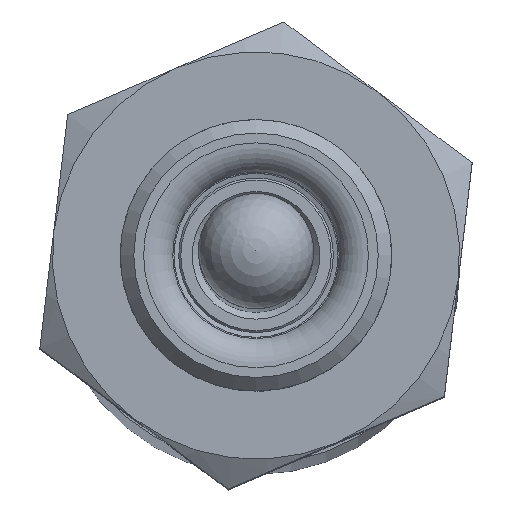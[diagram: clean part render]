
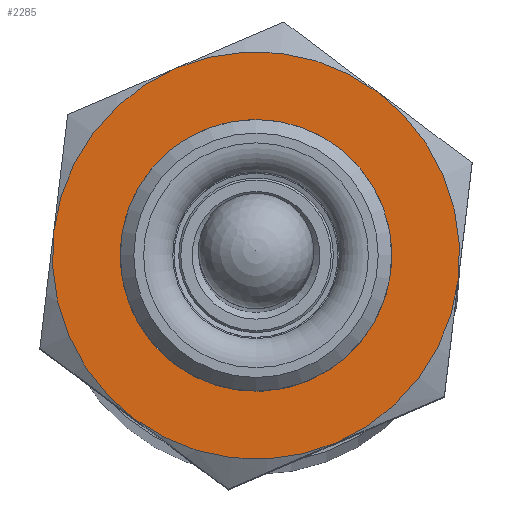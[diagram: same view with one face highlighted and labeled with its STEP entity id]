
A CAD part, top view. The second image highlights one B-rep face of the part: STEP entity #2285.
In plain terms, the highlighted planar face has unit normal (0, 0, 1) as drawn and (1, 0, 0) by its records, which use the part's own axes.
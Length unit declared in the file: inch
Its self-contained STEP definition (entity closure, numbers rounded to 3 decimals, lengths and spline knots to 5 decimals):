
#162=FACE_BOUND('',#540,.T.);
#217=PLANE('',#2655);
#354=FACE_OUTER_BOUND('',#539,.T.);
#539=EDGE_LOOP('',(#1909,#1910,#1911,#1912,#1913,#1914));
#540=EDGE_LOOP('',(#1915));
#929=CIRCLE('',#2654,0.25006);
#930=CIRCLE('',#2656,0.375);
#931=CIRCLE('',#2657,0.375);
#932=CIRCLE('',#2658,0.375);
#933=CIRCLE('',#2659,0.375);
#934=CIRCLE('',#2660,0.375);
#935=CIRCLE('',#2661,0.375);
#1102=VERTEX_POINT('',#4100);
#1103=VERTEX_POINT('',#4104);
#1104=VERTEX_POINT('',#4105);
#1105=VERTEX_POINT('',#4107);
#1106=VERTEX_POINT('',#4109);
#1107=VERTEX_POINT('',#4111);
#1108=VERTEX_POINT('',#4113);
#1372=EDGE_CURVE('',#1102,#1102,#929,.T.);
#1374=EDGE_CURVE('',#1103,#1104,#930,.T.);
#1375=EDGE_CURVE('',#1104,#1105,#931,.T.);
#1376=EDGE_CURVE('',#1105,#1106,#932,.T.);
#1377=EDGE_CURVE('',#1106,#1107,#933,.T.);
#1378=EDGE_CURVE('',#1107,#1108,#934,.T.);
#1379=EDGE_CURVE('',#1108,#1103,#935,.T.);
#1909=ORIENTED_EDGE('',*,*,#1374,.T.);
#1910=ORIENTED_EDGE('',*,*,#1375,.T.);
#1911=ORIENTED_EDGE('',*,*,#1376,.T.);
#1912=ORIENTED_EDGE('',*,*,#1377,.T.);
#1913=ORIENTED_EDGE('',*,*,#1378,.T.);
#1914=ORIENTED_EDGE('',*,*,#1379,.T.);
#1915=ORIENTED_EDGE('',*,*,#1372,.F.);
#2285=ADVANCED_FACE('',(#354,#162),#217,.T.);
#2654=AXIS2_PLACEMENT_3D('',#4101,#3347,#3348);
#2655=AXIS2_PLACEMENT_3D('',#4103,#3350,#3351);
#2656=AXIS2_PLACEMENT_3D('',#4106,#3352,#3353);
#2657=AXIS2_PLACEMENT_3D('',#4108,#3354,#3355);
#2658=AXIS2_PLACEMENT_3D('',#4110,#3356,#3357);
#2659=AXIS2_PLACEMENT_3D('',#4112,#3358,#3359);
#2660=AXIS2_PLACEMENT_3D('',#4114,#3360,#3361);
#2661=AXIS2_PLACEMENT_3D('',#4115,#3362,#3363);
#3347=DIRECTION('center_axis',(1.,0.,0.));
#3348=DIRECTION('ref_axis',(0.,0.,1.));
#3350=DIRECTION('center_axis',(1.,0.,0.));
#3351=DIRECTION('ref_axis',(0.,0.,-1.));
#3352=DIRECTION('center_axis',(1.,0.,0.));
#3353=DIRECTION('ref_axis',(0.,1.,0.));
#3354=DIRECTION('center_axis',(1.,0.,0.));
#3355=DIRECTION('ref_axis',(0.,1.,0.));
#3356=DIRECTION('center_axis',(1.,0.,0.));
#3357=DIRECTION('ref_axis',(0.,1.,0.));
#3358=DIRECTION('center_axis',(1.,0.,0.));
#3359=DIRECTION('ref_axis',(0.,1.,0.));
#3360=DIRECTION('center_axis',(1.,0.,0.));
#3361=DIRECTION('ref_axis',(0.,1.,0.));
#3362=DIRECTION('center_axis',(1.,0.,0.));
#3363=DIRECTION('ref_axis',(0.,1.,0.));
#4100=CARTESIAN_POINT('',(0.448,0.,-0.25006));
#4101=CARTESIAN_POINT('Origin',(0.448,0.,0.));
#4103=CARTESIAN_POINT('Origin',(0.448,0.,0.));
#4104=CARTESIAN_POINT('',(0.448,-0.32476,-0.1875));
#4105=CARTESIAN_POINT('',(0.448,0.,-0.375));
#4106=CARTESIAN_POINT('Origin',(0.448,0.,0.));
#4107=CARTESIAN_POINT('',(0.448,0.32476,-0.1875));
#4108=CARTESIAN_POINT('Origin',(0.448,0.,0.));
#4109=CARTESIAN_POINT('',(0.448,0.32476,0.1875));
#4110=CARTESIAN_POINT('Origin',(0.448,0.,0.));
#4111=CARTESIAN_POINT('',(0.448,0.,0.375));
#4112=CARTESIAN_POINT('Origin',(0.448,0.,0.));
#4113=CARTESIAN_POINT('',(0.448,-0.32476,0.1875));
#4114=CARTESIAN_POINT('Origin',(0.448,0.,0.));
#4115=CARTESIAN_POINT('Origin',(0.448,0.,0.));
